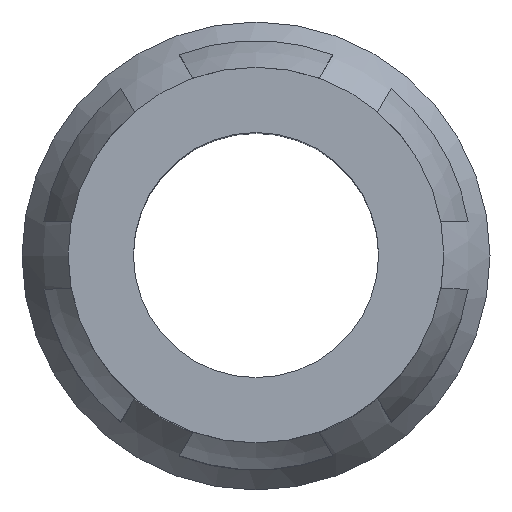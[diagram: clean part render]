
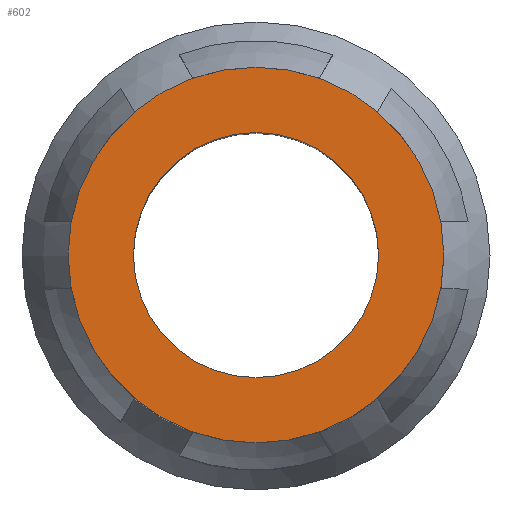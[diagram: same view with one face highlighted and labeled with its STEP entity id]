
A CAD part, top view. The second image highlights one B-rep face of the part: STEP entity #602.
In plain terms, the highlighted planar face has unit normal (0, 0, 1).
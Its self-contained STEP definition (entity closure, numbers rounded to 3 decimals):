
#225 = EDGE_CURVE ( 'NONE', #2089, #2089, #1077, .T. ) ;
#260 = VERTEX_POINT ( 'NONE', #892 ) ;
#274 = AXIS2_PLACEMENT_3D ( 'NONE', #730, #1386, #1372 ) ;
#288 = ORIENTED_EDGE ( 'NONE', *, *, #225, .T. ) ;
#439 = DIRECTION ( 'NONE',  ( 0., 0., -1. ) ) ;
#463 = AXIS2_PLACEMENT_3D ( 'NONE', #630, #439, #978 ) ;
#563 = EDGE_LOOP ( 'NONE', ( #1196 ) ) ;
#602 = ADVANCED_FACE ( 'NONE', ( #1501, #1908 ), #675, .F. ) ;
#630 = CARTESIAN_POINT ( 'NONE',  ( 9.281, 0., -12.828 ) ) ;
#675 = PLANE ( 'NONE',  #274 ) ;
#730 = CARTESIAN_POINT ( 'NONE',  ( 11.503, 0., -12.828 ) ) ;
#835 = CARTESIAN_POINT ( 'NONE',  ( 7.831, 0., -12.828 ) ) ;
#887 = EDGE_CURVE ( 'NONE', #260, #260, #1472, .T. ) ;
#892 = CARTESIAN_POINT ( 'NONE',  ( 7.058, 0., -12.828 ) ) ;
#978 = DIRECTION ( 'NONE',  ( -1., 0., 0. ) ) ;
#990 = DIRECTION ( 'NONE',  ( 0., 0., -1. ) ) ;
#1021 = CARTESIAN_POINT ( 'NONE',  ( 9.281, 0., -12.828 ) ) ;
#1077 = CIRCLE ( 'NONE', #2192, 1.45 ) ;
#1196 = ORIENTED_EDGE ( 'NONE', *, *, #887, .F. ) ;
#1372 = DIRECTION ( 'NONE',  ( -1., 0., 0. ) ) ;
#1386 = DIRECTION ( 'NONE',  ( 0., 0., -1. ) ) ;
#1472 = CIRCLE ( 'NONE', #463, 2.222 ) ;
#1501 = FACE_BOUND ( 'NONE', #1671, .T. ) ;
#1671 = EDGE_LOOP ( 'NONE', ( #288 ) ) ;
#1886 = DIRECTION ( 'NONE',  ( -1., 0., 0. ) ) ;
#1908 = FACE_OUTER_BOUND ( 'NONE', #563, .T. ) ;
#2089 = VERTEX_POINT ( 'NONE', #835 ) ;
#2192 = AXIS2_PLACEMENT_3D ( 'NONE', #1021, #990, #1886 ) ;
